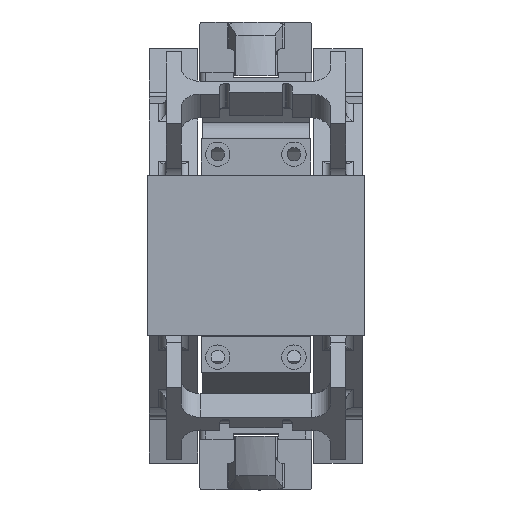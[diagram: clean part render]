
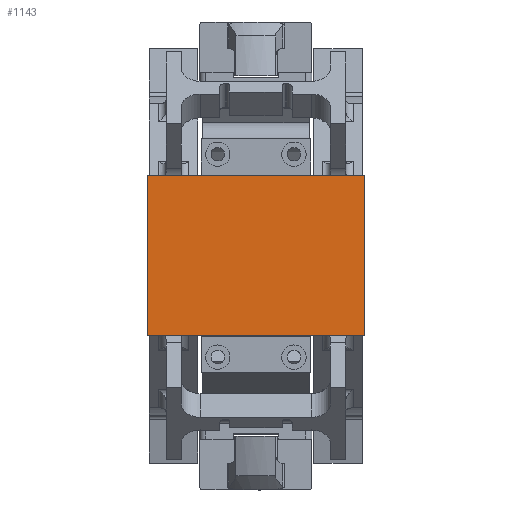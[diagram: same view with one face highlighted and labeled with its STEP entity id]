
A CAD part, top view. The second image highlights one B-rep face of the part: STEP entity #1143.
In plain terms, the highlighted planar face has unit normal (0, 0, 1).
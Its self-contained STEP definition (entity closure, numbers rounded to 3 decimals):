
#1143=ADVANCED_FACE('',(#1721),#1488,.T.);
#1488=PLANE('',#9024);
#1721=FACE_OUTER_BOUND('',#2343,.T.);
#2343=EDGE_LOOP('',(#4075,#4076,#4077,#4078));
#4075=ORIENTED_EDGE('',*,*,#6625,.T.);
#4076=ORIENTED_EDGE('',*,*,#6626,.F.);
#4077=ORIENTED_EDGE('',*,*,#6627,.F.);
#4078=ORIENTED_EDGE('',*,*,#6628,.T.);
#5662=VERTEX_POINT('',#14583);
#5663=VERTEX_POINT('',#14584);
#5664=VERTEX_POINT('',#14586);
#5665=VERTEX_POINT('',#14588);
#6625=EDGE_CURVE('',#5662,#5663,#7499,.T.);
#6626=EDGE_CURVE('',#5664,#5663,#7500,.T.);
#6627=EDGE_CURVE('',#5665,#5664,#7501,.T.);
#6628=EDGE_CURVE('',#5665,#5662,#7502,.T.);
#7499=LINE('',#14582,#8189);
#7500=LINE('',#14585,#8190);
#7501=LINE('',#14587,#8191);
#7502=LINE('',#14589,#8192);
#8189=VECTOR('',#10655,1.);
#8190=VECTOR('',#10656,1.);
#8191=VECTOR('',#10657,1.);
#8192=VECTOR('',#10658,1.);
#9024=AXIS2_PLACEMENT_3D('',#14590,#10659,#10660);
#10655=DIRECTION('',(0.,-1.,0.));
#10656=DIRECTION('',(-1.,0.,0.));
#10657=DIRECTION('',(0.,-1.,0.));
#10658=DIRECTION('',(-1.,0.,0.));
#10659=DIRECTION('',(0.,0.,1.));
#10660=DIRECTION('',(-1.,0.,0.));
#14582=CARTESIAN_POINT('',(-2.994,-18.975,26.134));
#14583=CARTESIAN_POINT('',(-2.994,6.325,26.134));
#14584=CARTESIAN_POINT('',(-2.994,-29.325,26.134));
#14585=CARTESIAN_POINT('',(-1.894,-29.325,26.134));
#14586=CARTESIAN_POINT('',(23.306,-29.325,26.134));
#14587=CARTESIAN_POINT('',(23.306,-18.975,26.134));
#14588=CARTESIAN_POINT('',(23.306,6.325,26.134));
#14589=CARTESIAN_POINT('',(-1.894,6.325,26.134));
#14590=CARTESIAN_POINT('',(-1.894,5.525,26.134));
